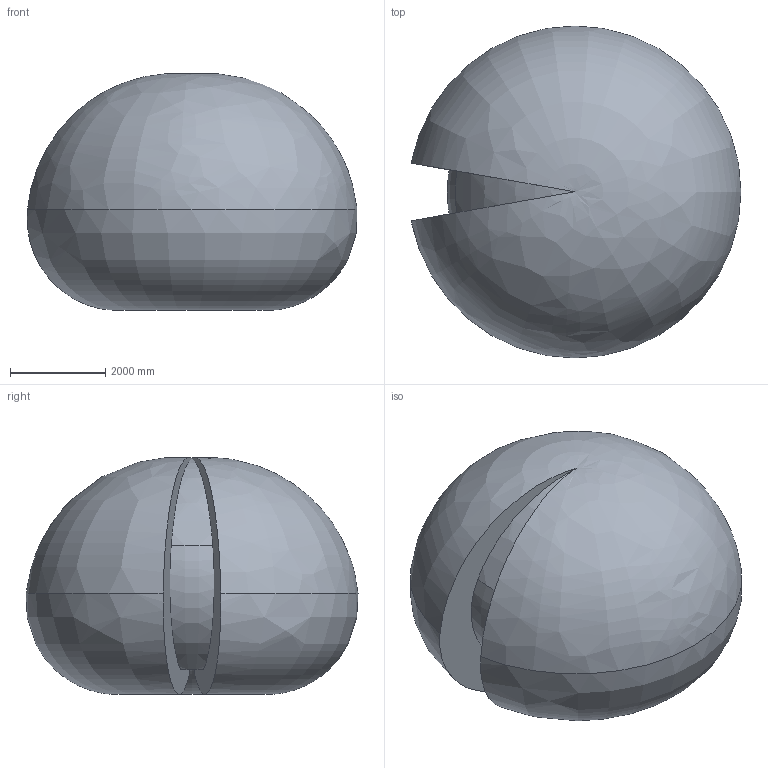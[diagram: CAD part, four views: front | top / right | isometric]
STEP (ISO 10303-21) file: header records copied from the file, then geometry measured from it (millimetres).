
FILE_DESCRIPTION (( 'STEP AP214' ), '1' );
FILE_NAME ('IRB6760_150kg-350_OC_00_ASM_CAD.step', '2025-09-30T13:05:48', ( '' ), ( '' ), 'SwSTEP 2.0', 'SolidWorks 2024', '' );
FILE_SCHEMA (( 'AUTOMOTIVE_DESIGN' ));
Length unit declared in the file: millimetre
Products named in the file (14): IRB6760_All-350_OC_00_LINK05_CAD; IRB6760_All_OC_00_ROD_CAD; IRB6760_All_OC_00_LINK01m_CABLE; IRB6760_All-350_OC_00_LINK06_CAD; IRB6760_All_OC_00_LINK03_CAD; IRB6760_All_OC_00_BASE_CAD; IRB6760_All_OC_00_LINK03m_CABLE; IRB6760_All_OC_00_LINK01_CAD; IRB6760_All-350_OC_00_Working-envelope; IRB6760_150kg-350_OC_00_ASM_CAD; IRB6760_All_OC_00_LINK02_CAD; IRB6760_All-350_OC_00_LINK04_CAD; IRB6760_All_OC_00_CYL_CAD; IRB6760_All_OC_00_LINK02m_CABLE
Assembly tree (13 placements, depth 2):
  IRB6760_150kg-350_OC_00_ASM_CAD
    IRB6760_All_OC_00_BASE_CAD
    IRB6760_All_OC_00_LINK01_CAD
    IRB6760_All_OC_00_LINK02_CAD
    IRB6760_All_OC_00_LINK03_CAD
    IRB6760_All_OC_00_CYL_CAD
    IRB6760_All_OC_00_ROD_CAD
    IRB6760_All-350_OC_00_LINK04_CAD
    IRB6760_All-350_OC_00_LINK05_CAD
    IRB6760_All-350_OC_00_LINK06_CAD
    IRB6760_All_OC_00_LINK02m_CABLE
    IRB6760_All_OC_00_LINK03m_CABLE
    IRB6760_All_OC_00_LINK01m_CABLE
    IRB6760_All-350_OC_00_Working-envelope
Bounding box: 6942.93 x 6985.68 x 4982.87 mm (x, y, z)
Volume: 122984086287.3 mm3; surface area: 183623884 mm2
Topology: 14 solids, 21 shells, 7792 faces, 20018 edges, 12786 vertices
Faces by surface type: plane 3579, cylinder 2051, cone 1295, bspline 640, torus 214, sphere 13
Entity records: 423307 total; most frequent: CARTESIAN_POINT 160248, ORIENTED_EDGE 39664, DIRECTION 36086, EDGE_CURVE 19832, AXIS2_PLACEMENT_3D 13345, VERTEX_POINT 12784, VECTOR 9396, LINE 9396
